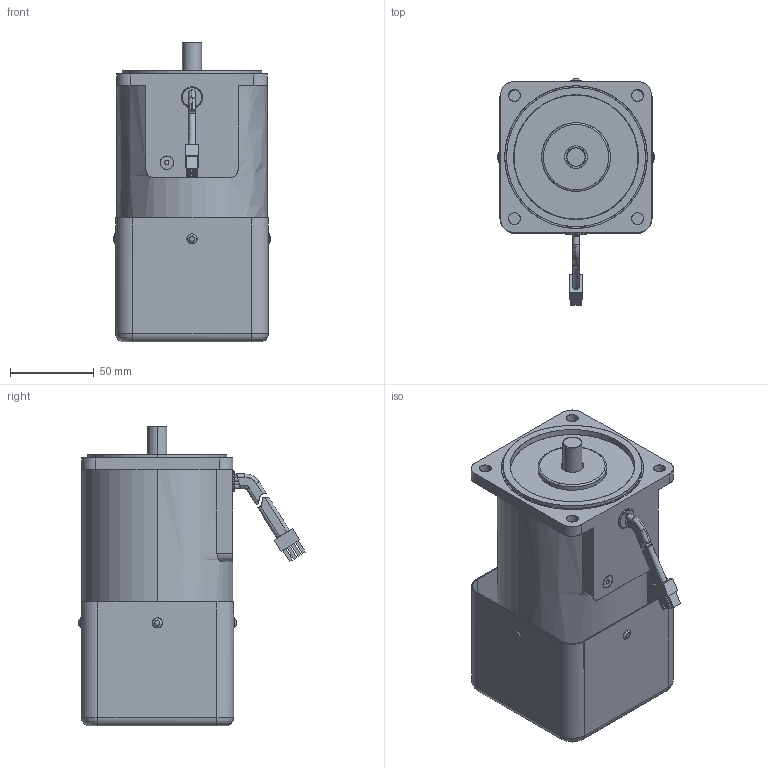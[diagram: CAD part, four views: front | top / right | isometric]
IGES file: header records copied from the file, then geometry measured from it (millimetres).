
Start section: SolidWorks IGES file using analytic representation for surfaces
Global section: file name: \\楷备家烹钦辑滚\data (D)\档搁 枚\权其捞瘤 档搁\7. SPEED INDUCTION\90\60W\(7-57) 9SDG∴-60F2P.IGS; native system: SolidWorks 2007; preprocessor: SolidWorks 2007; author: user; date: 150706.164738; units: millimetre
Bounding box: 94 x 135.4 x 179 mm (x, y, z)
Surface area: 168594 mm2 (no closed solid volume)
Topology: 0 solids, 0 shells, 396 faces, 7002 edges, 7002 vertices
Faces by surface type: revolution 240, bspline 156
